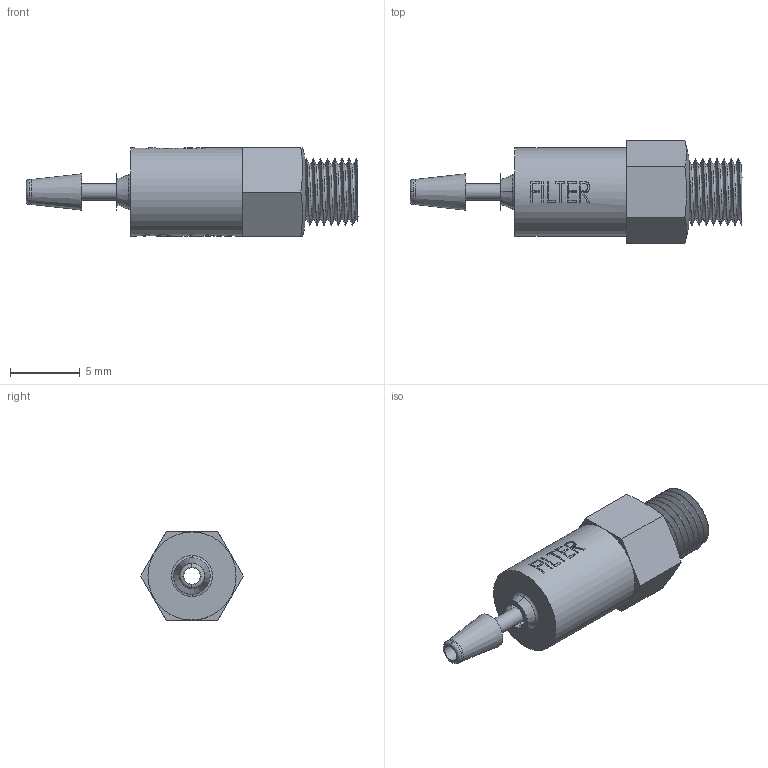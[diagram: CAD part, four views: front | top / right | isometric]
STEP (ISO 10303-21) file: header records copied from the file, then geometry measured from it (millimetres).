
FILE_DESCRIPTION(/* description */ ('SolidWorks IGES file using NURBS representation for surfaces '),/* implementation_level */ '2;1');
FILE_NAME(/* name */ 'K:\Normteile INVENTOR\Air-Logic\Filters\F-960-43-B80.IGS.ipt.stp',/* time_stamp */ '2020-05-27T10:39:58+02:00',/* author */ ('amarsh'),/* organization */ (''),/* preprocessor_version */ 'ST-DEVELOPER v18',/* originating_system */ 'Autodesk Inventor 2020',/* authorisation */ '');
FILE_SCHEMA (('AUTOMOTIVE_DESIGN { 1 0 10303 214 3 1 1 }'));
Length unit declared in the file: millimetre
Products named in the file (1): F-960-43-B80.IGS
Bounding box: 23.75 x 7.33 x 6.35 mm (x, y, z)
Volume: 436.3 mm3; surface area: 598.3 mm2
Topology: 1 solids, 1 shells, 180 faces, 490 edges, 330 vertices
Faces by surface type: plane 88, bspline 47, cylinder 36, cone 5, torus 4
Full cylindrical faces by diameter (mm): 1.17 x1, 1.8 x1, 2.36 x1, 4.75 x7, 6.3 x1
Entity records: 10689 total; most frequent: CARTESIAN_POINT 6302, ORIENTED_EDGE 980, DIRECTION 785, EDGE_CURVE 490, VERTEX_POINT 330, AXIS2_PLACEMENT_3D 274, LINE 237, VECTOR 237
